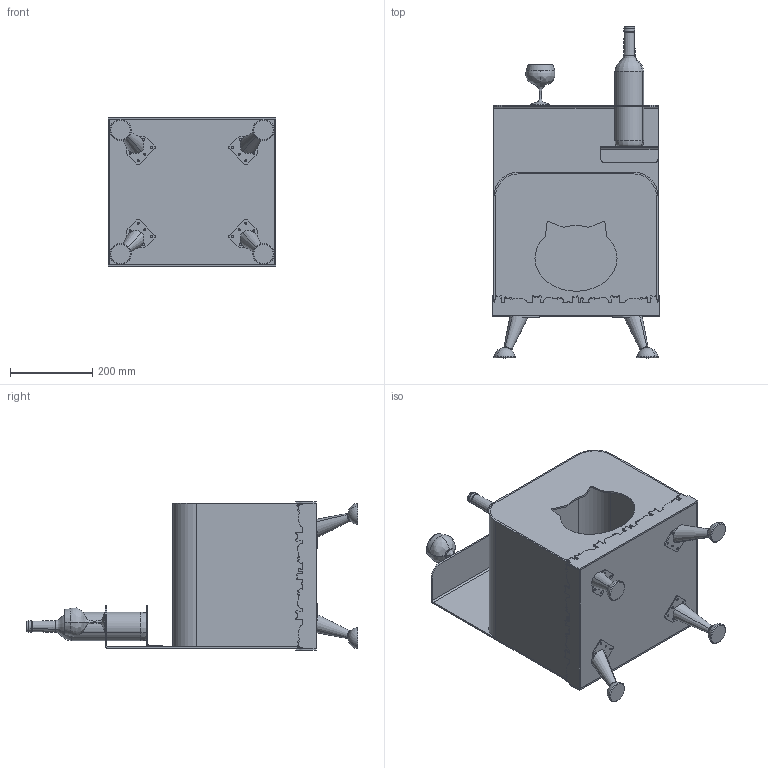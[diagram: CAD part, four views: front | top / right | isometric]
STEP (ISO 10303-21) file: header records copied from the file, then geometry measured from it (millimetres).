
FILE_DESCRIPTION (( 'STEP AP203' ), '1' );
FILE_NAME ('Cat house.STEP', '2019-10-25T10:09:40', ( '' ), ( '' ), 'SwSTEP 2.0', 'SolidWorks 2016', '' );
FILE_SCHEMA (( 'CONFIG_CONTROL_DESIGN' ));
Length unit declared in the file: millimetre
Products named in the file (18): 枟襝僪; Nogi; Ïåðåäíÿÿ ñòåíêà; Îïîðà 038-04 ëèòàÿ; ﾁ鶴琿; Glass; Cat house; 侲膹馯罻 400 擤; ﾄ濵; Acril; Cat; Derevo; Áóòûëêà; Âåðõíÿÿ ïàíåëü; Ïîäñòàâêà; Çàäíÿÿ ñòåíêà ñ ïîëêîé; water; 侲膹馯罻 354 擤
Assembly tree (22 placements, depth 3):
  Cat house
    Acril
      Çàäíÿÿ ñòåíêà ñ ïîëêîé
      Ïîäñòàâêà
      Âåðõíÿÿ ïàíåëü
      Ïåðåäíÿÿ ñòåíêà  x2
    Derevo
      ﾄ濵
      侲膹馯罻 400 擤  x2
      侲膹馯罻 354 擤  x2
    Nogi
      Îïîðà 038-04 ëèòàÿ  x4
    Áóòûëêà
    ﾁ鶴琿
      Glass
      water
    枟襝僪
  Cat
Bounding box: 408 x 808.95 x 362 mm (x, y, z)
Volume: 8371910.5 mm3; surface area: 2639977.7 mm2
Topology: 18 solids, 18 shells, 1445 faces, 4014 edges, 2597 vertices
Faces by surface type: bspline 1038, plane 265, cylinder 90, torus 24, cone 20, sphere 8
Entity records: 64312 total; most frequent: CARTESIAN_POINT 42888, ORIENTED_EDGE 5740, EDGE_CURVE 2870, VERTEX_POINT 1847, DIRECTION 1758, B_SPLINE_CURVE_WITH_KNOTS 1118, EDGE_LOOP 1065, FACE_OUTER_BOUND 1049
